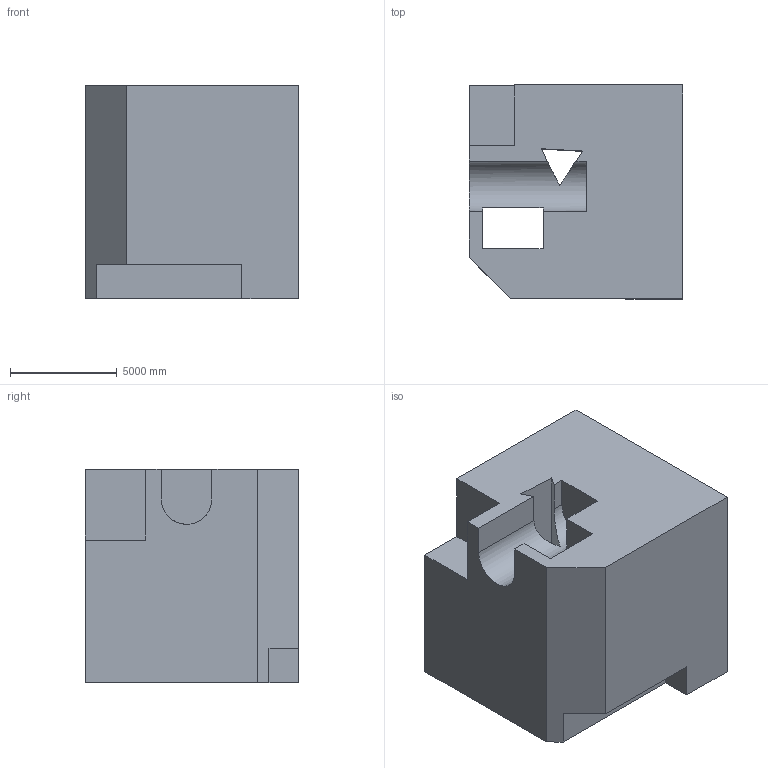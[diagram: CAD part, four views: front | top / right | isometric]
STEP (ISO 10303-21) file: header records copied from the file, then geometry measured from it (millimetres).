
FILE_DESCRIPTION (( 'STEP AP203' ), '1' );
FILE_NAME ('1633.STEP', '2022-08-19T11:12:34', ( 'user' ), ( '' ), 'SwSTEP 2.0', 'SolidWorks 2021', '' );
FILE_SCHEMA (( 'CONFIG_CONTROL_DESIGN' ));
Length unit declared in the file: centimetre
Products named in the file (1): 1633
Bounding box: 10000 x 10000 x 10000 mm (x, y, z)
Volume: 833462530556.1 mm3; surface area: 756140572 mm2
Topology: 1 solids, 1 shells, 29 faces, 84 edges, 56 vertices
Faces by surface type: plane 26, cylinder 3
Entity records: 1031 total; most frequent: CARTESIAN_POINT 176, ORIENTED_EDGE 168, DIRECTION 150, EDGE_CURVE 84, LINE 74, VECTOR 74, VERTEX_POINT 56, AXIS2_PLACEMENT_3D 38
